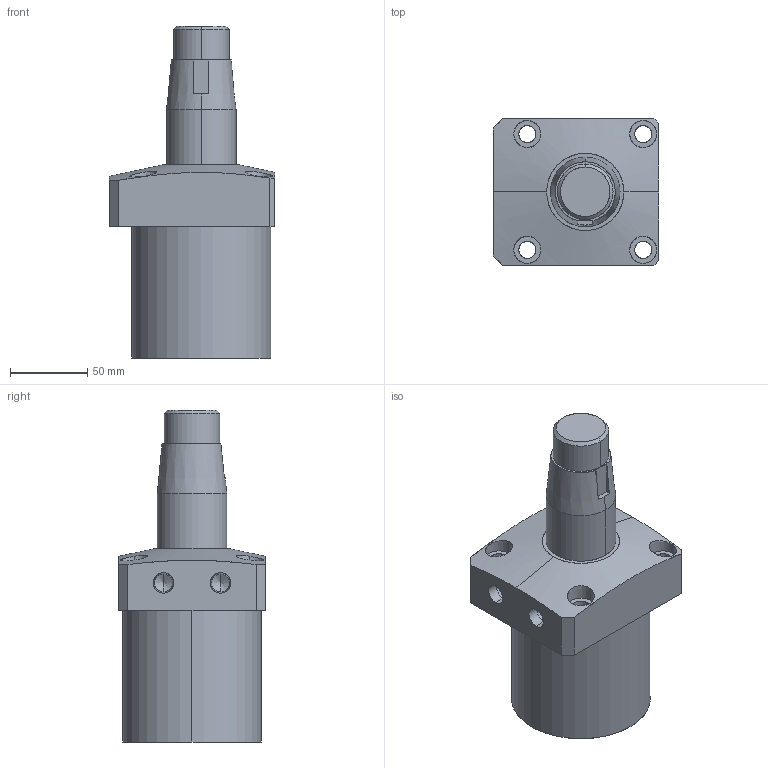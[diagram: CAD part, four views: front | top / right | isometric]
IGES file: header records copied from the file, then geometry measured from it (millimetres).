
Start section: SolidWorks IGES file using analytic representation for surfaces
Global section: file name: E:\ALL SSVT IGS MODEL\ALL-SWING-IGS\SWING-90\SC02-901-902-LH-RH-TOP-TAPER\SC02-901-RH-TOP-TAPER.IGS; native system: SolidWorks 2019; preprocessor: SolidWorks 2019; author: SSVT; date: 210823.131543; units: millimetre
Bounding box: 107 x 95 x 215 mm (x, y, z)
Surface area: 96461.5 mm2 (no closed solid volume)
Topology: 0 solids, 0 shells, 71 faces, 1732 edges, 1728 vertices
Faces by surface type: revolution 46, bspline 25
